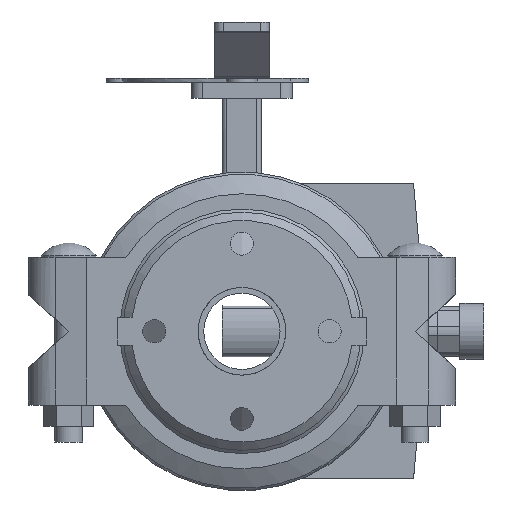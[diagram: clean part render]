
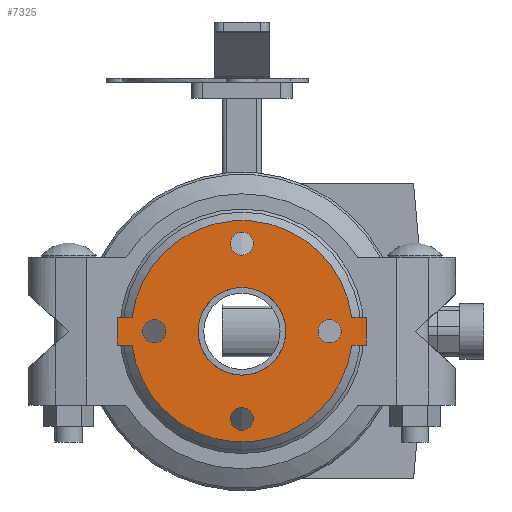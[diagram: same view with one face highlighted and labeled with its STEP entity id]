
A CAD part, front view. The second image highlights one B-rep face of the part: STEP entity #7325.
In plain terms, the highlighted planar face has unit normal (0, -1, 0) as drawn and (0, 0, -1) by its records, which use the part's own axes.
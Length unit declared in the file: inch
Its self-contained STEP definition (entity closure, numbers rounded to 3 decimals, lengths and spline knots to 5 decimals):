
#170=FACE_BOUND('',#903,.T.);
#171=FACE_BOUND('',#904,.T.);
#172=FACE_BOUND('',#905,.T.);
#173=FACE_BOUND('',#906,.T.);
#174=FACE_BOUND('',#907,.T.);
#260=PLANE('',#7944);
#497=FACE_OUTER_BOUND('',#902,.T.);
#902=EDGE_LOOP('',(#4688,#4689,#4690,#4691,#4692,#4693,#4694,#4695));
#903=EDGE_LOOP('',(#4696));
#904=EDGE_LOOP('',(#4697));
#905=EDGE_LOOP('',(#4698));
#906=EDGE_LOOP('',(#4699));
#907=EDGE_LOOP('',(#4700,#4701));
#1397=LINE('',#11130,#1950);
#1398=LINE('',#11132,#1951);
#1399=LINE('',#11134,#1952);
#1400=LINE('',#11138,#1953);
#1401=LINE('',#11140,#1954);
#1402=LINE('',#11141,#1955);
#1950=VECTOR('',#8838,0.3937);
#1951=VECTOR('',#8839,0.3937);
#1952=VECTOR('',#8840,0.3937);
#1953=VECTOR('',#8843,0.3937);
#1954=VECTOR('',#8844,0.3937);
#1955=VECTOR('',#8845,0.3937);
#2500=CIRCLE('',#7934,0.3125);
#2502=CIRCLE('',#7937,0.3125);
#2504=CIRCLE('',#7940,0.3125);
#2506=CIRCLE('',#7943,0.3125);
#2507=CIRCLE('',#7945,3.);
#2508=CIRCLE('',#7946,3.);
#2509=CIRCLE('',#7947,1.1875);
#2510=CIRCLE('',#7948,1.1875);
#2924=VERTEX_POINT('',#11104);
#2926=VERTEX_POINT('',#11110);
#2928=VERTEX_POINT('',#11116);
#2930=VERTEX_POINT('',#11122);
#2931=VERTEX_POINT('',#11126);
#2932=VERTEX_POINT('',#11127);
#2933=VERTEX_POINT('',#11129);
#2934=VERTEX_POINT('',#11131);
#2935=VERTEX_POINT('',#11133);
#2936=VERTEX_POINT('',#11135);
#2937=VERTEX_POINT('',#11137);
#2938=VERTEX_POINT('',#11139);
#2939=VERTEX_POINT('',#11142);
#2940=VERTEX_POINT('',#11143);
#3629=EDGE_CURVE('',#2924,#2924,#2500,.T.);
#3632=EDGE_CURVE('',#2926,#2926,#2502,.T.);
#3635=EDGE_CURVE('',#2928,#2928,#2504,.T.);
#3638=EDGE_CURVE('',#2930,#2930,#2506,.T.);
#3639=EDGE_CURVE('',#2931,#2932,#2507,.T.);
#3640=EDGE_CURVE('',#2932,#2933,#1397,.T.);
#3641=EDGE_CURVE('',#2933,#2934,#1398,.T.);
#3642=EDGE_CURVE('',#2934,#2935,#1399,.T.);
#3643=EDGE_CURVE('',#2935,#2936,#2508,.T.);
#3644=EDGE_CURVE('',#2936,#2937,#1400,.T.);
#3645=EDGE_CURVE('',#2937,#2938,#1401,.T.);
#3646=EDGE_CURVE('',#2938,#2931,#1402,.T.);
#3647=EDGE_CURVE('',#2939,#2940,#2509,.T.);
#3648=EDGE_CURVE('',#2940,#2939,#2510,.T.);
#4688=ORIENTED_EDGE('',*,*,#3639,.T.);
#4689=ORIENTED_EDGE('',*,*,#3640,.T.);
#4690=ORIENTED_EDGE('',*,*,#3641,.T.);
#4691=ORIENTED_EDGE('',*,*,#3642,.T.);
#4692=ORIENTED_EDGE('',*,*,#3643,.T.);
#4693=ORIENTED_EDGE('',*,*,#3644,.T.);
#4694=ORIENTED_EDGE('',*,*,#3645,.T.);
#4695=ORIENTED_EDGE('',*,*,#3646,.T.);
#4696=ORIENTED_EDGE('',*,*,#3629,.T.);
#4697=ORIENTED_EDGE('',*,*,#3632,.T.);
#4698=ORIENTED_EDGE('',*,*,#3635,.T.);
#4699=ORIENTED_EDGE('',*,*,#3638,.T.);
#4700=ORIENTED_EDGE('',*,*,#3647,.T.);
#4701=ORIENTED_EDGE('',*,*,#3648,.T.);
#7325=ADVANCED_FACE('',(#497,#170,#171,#172,#173,#174),#260,.T.);
#7934=AXIS2_PLACEMENT_3D('',#11106,#8811,#8812);
#7937=AXIS2_PLACEMENT_3D('',#11112,#8818,#8819);
#7940=AXIS2_PLACEMENT_3D('',#11118,#8825,#8826);
#7943=AXIS2_PLACEMENT_3D('',#11124,#8832,#8833);
#7944=AXIS2_PLACEMENT_3D('',#11125,#8834,#8835);
#7945=AXIS2_PLACEMENT_3D('',#11128,#8836,#8837);
#7946=AXIS2_PLACEMENT_3D('',#11136,#8841,#8842);
#7947=AXIS2_PLACEMENT_3D('',#11144,#8846,#8847);
#7948=AXIS2_PLACEMENT_3D('',#11145,#8848,#8849);
#8811=DIRECTION('center_axis',(0.,0.,1.));
#8812=DIRECTION('ref_axis',(0.,1.,0.));
#8818=DIRECTION('center_axis',(0.,0.,1.));
#8819=DIRECTION('ref_axis',(1.,0.,0.));
#8825=DIRECTION('center_axis',(0.,0.,1.));
#8826=DIRECTION('ref_axis',(0.,-1.,0.));
#8832=DIRECTION('center_axis',(0.,0.,1.));
#8833=DIRECTION('ref_axis',(-1.,0.,0.));
#8834=DIRECTION('center_axis',(0.,0.,-1.));
#8835=DIRECTION('ref_axis',(-1.,0.,0.));
#8836=DIRECTION('center_axis',(0.,0.,-1.));
#8837=DIRECTION('ref_axis',(-1.,0.,0.));
#8838=DIRECTION('',(0.,1.,0.));
#8839=DIRECTION('',(1.,0.,0.));
#8840=DIRECTION('',(0.,-1.,0.));
#8841=DIRECTION('center_axis',(0.,0.,-1.));
#8842=DIRECTION('ref_axis',(-1.,0.,0.));
#8843=DIRECTION('',(0.,-1.,0.));
#8844=DIRECTION('',(-1.,0.,0.));
#8845=DIRECTION('',(0.,1.,0.));
#8846=DIRECTION('center_axis',(0.,0.,1.));
#8847=DIRECTION('ref_axis',(-1.,0.,0.));
#8848=DIRECTION('center_axis',(0.,0.,1.));
#8849=DIRECTION('ref_axis',(-1.,0.,0.));
#11104=CARTESIAN_POINT('',(0.,2.0625,-0.375));
#11106=CARTESIAN_POINT('Origin',(0.,2.375,-0.375));
#11110=CARTESIAN_POINT('',(2.0625,0.,-0.375));
#11112=CARTESIAN_POINT('Origin',(2.375,0.,-0.375));
#11116=CARTESIAN_POINT('',(0.,-2.0625,-0.375));
#11118=CARTESIAN_POINT('Origin',(0.,-2.375,-0.375));
#11122=CARTESIAN_POINT('',(-2.0625,0.,-0.375));
#11124=CARTESIAN_POINT('Origin',(-2.375,0.,-0.375));
#11125=CARTESIAN_POINT('Origin',(0.,0.,-0.375));
#11126=CARTESIAN_POINT('',(-0.375,-2.97647,-0.375));
#11127=CARTESIAN_POINT('',(-0.375,2.97647,-0.375));
#11128=CARTESIAN_POINT('Origin',(0.,0.,-0.375));
#11129=CARTESIAN_POINT('',(-0.375,3.375,-0.375));
#11130=CARTESIAN_POINT('',(-0.375,-3.375,-0.375));
#11131=CARTESIAN_POINT('',(0.375,3.375,-0.375));
#11132=CARTESIAN_POINT('',(-0.375,3.375,-0.375));
#11133=CARTESIAN_POINT('',(0.375,2.97647,-0.375));
#11134=CARTESIAN_POINT('',(0.375,3.375,-0.375));
#11135=CARTESIAN_POINT('',(0.375,-2.97647,-0.375));
#11136=CARTESIAN_POINT('Origin',(0.,0.,-0.375));
#11137=CARTESIAN_POINT('',(0.375,-3.375,-0.375));
#11138=CARTESIAN_POINT('',(0.375,3.375,-0.375));
#11139=CARTESIAN_POINT('',(-0.375,-3.375,-0.375));
#11140=CARTESIAN_POINT('',(0.375,-3.375,-0.375));
#11141=CARTESIAN_POINT('',(-0.375,-3.375,-0.375));
#11142=CARTESIAN_POINT('',(0.375,1.12673,-0.375));
#11143=CARTESIAN_POINT('',(1.1875,0.,-0.375));
#11144=CARTESIAN_POINT('Origin',(0.,0.,-0.375));
#11145=CARTESIAN_POINT('Origin',(0.,0.,-0.375));
